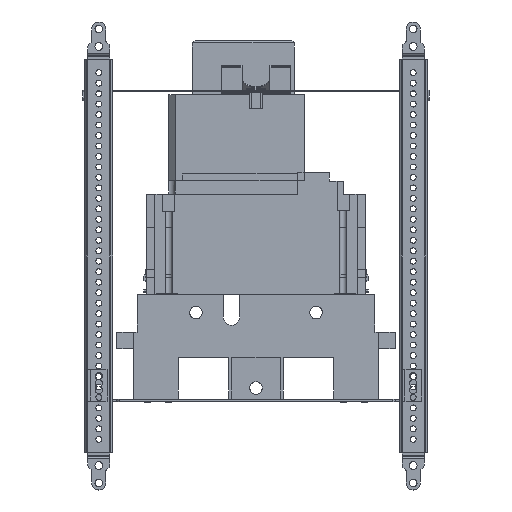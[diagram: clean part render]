
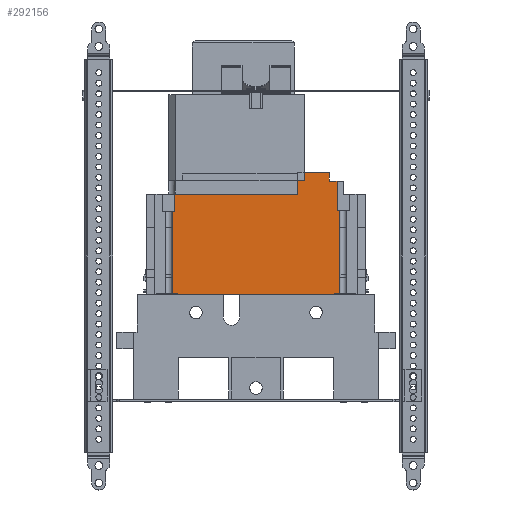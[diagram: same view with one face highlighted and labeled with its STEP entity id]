
A CAD part, left-side view. The second image highlights one B-rep face of the part: STEP entity #292156.
In plain terms, the highlighted planar face has unit normal (-1, 0, 0).
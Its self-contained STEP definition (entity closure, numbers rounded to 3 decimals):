
#277731=CARTESIAN_POINT(' ',(-214.311,-53.177,9.353));
#277732=VERTEX_POINT(' ',#277731);
#277746=CARTESIAN_POINT(' ',(-214.311,-53.177,9.353));
#277751=DIRECTION(' ',(0.,1.,0.));
#277756=VECTOR(' ',#277751,1.);
#277761=LINE('',#277746,#277756);
#277766=CARTESIAN_POINT(' ',(-214.311,59.243,9.353));
#277767=VERTEX_POINT(' ',#277766);
#277771=EDGE_CURVE(' ',#277732,#277767,#277761,.T.);
#291536=CARTESIAN_POINT(' ',(-214.311,-53.177,9.353));
#291541=DIRECTION(' ',(0.,0.,1.));
#291546=VECTOR(' ',#291541,1.);
#291551=LINE('',#291536,#291546);
#291556=CARTESIAN_POINT(' ',(-214.311,-53.177,9.853));
#291557=VERTEX_POINT(' ',#291556);
#291561=EDGE_CURVE(' ',#277732,#291557,#291551,.T.);
#291626=DIRECTION(' ',(-1.,0.,0.));
#291631=CARTESIAN_POINT(' ',(-214.311,-56.879,9.353));
#291636=DIRECTION(' ',(0.,-0.,1.));
#291641=AXIS2_PLACEMENT_3D(' ',#291631,#291626,#291636);
#291646=PLANE('NONE',#291641);
#291651=CARTESIAN_POINT(' ',(-214.311,-56.879,69.284));
#291656=DIRECTION(' ',(0.,0.,-1.));
#291661=VECTOR(' ',#291656,1.);
#291666=LINE('',#291651,#291661);
#291671=CARTESIAN_POINT(' ',(-214.311,-56.879,69.284));
#291672=VERTEX_POINT(' ',#291671);
#291676=CARTESIAN_POINT(' ',(-214.311,-56.879,9.853));
#291677=VERTEX_POINT(' ',#291676);
#291681=EDGE_CURVE(' ',#291672,#291677,#291666,.T.);
#291686=ORIENTED_EDGE(' ',*,*,#291681,.F.);
#291691=CARTESIAN_POINT(' ',(-214.311,-54.979,69.284));
#291696=DIRECTION(' ',(0.,-1.,0.));
#291701=VECTOR(' ',#291696,1.);
#291706=LINE('',#291691,#291701);
#291711=CARTESIAN_POINT(' ',(-214.311,-54.979,69.284));
#291712=VERTEX_POINT(' ',#291711);
#291716=EDGE_CURVE(' ',#291712,#291672,#291706,.T.);
#291721=ORIENTED_EDGE(' ',*,*,#291716,.F.);
#291726=CARTESIAN_POINT(' ',(-214.311,-54.979,90.494));
#291731=DIRECTION(' ',(0.,0.,-1.));
#291736=VECTOR(' ',#291731,1.);
#291741=LINE('',#291726,#291736);
#291746=CARTESIAN_POINT(' ',(-214.311,-54.979,90.494));
#291747=VERTEX_POINT(' ',#291746);
#291751=EDGE_CURVE(' ',#291747,#291712,#291741,.T.);
#291756=ORIENTED_EDGE(' ',*,*,#291751,.F.);
#291761=CARTESIAN_POINT(' ',(-214.311,-49.482,90.494));
#291766=DIRECTION(' ',(0.,-1.,0.));
#291771=VECTOR(' ',#291766,1.);
#291776=LINE('',#291761,#291771);
#291781=CARTESIAN_POINT(' ',(-214.311,-49.482,90.494));
#291782=VERTEX_POINT(' ',#291781);
#291786=EDGE_CURVE(' ',#291782,#291747,#291776,.T.);
#291791=ORIENTED_EDGE(' ',*,*,#291786,.F.);
#291796=CARTESIAN_POINT(' ',(-214.311,-49.482,96.344));
#291801=DIRECTION(' ',(0.,0.,-1.));
#291806=VECTOR(' ',#291801,1.);
#291811=LINE('',#291796,#291806);
#291816=CARTESIAN_POINT(' ',(-214.311,-49.482,96.344));
#291817=VERTEX_POINT(' ',#291816);
#291821=EDGE_CURVE(' ',#291817,#291782,#291811,.T.);
#291826=ORIENTED_EDGE(' ',*,*,#291821,.F.);
#291831=CARTESIAN_POINT(' ',(-214.311,-26.984,96.344));
#291836=DIRECTION(' ',(0.,-1.,0.));
#291841=VECTOR(' ',#291836,1.);
#291846=LINE('',#291831,#291841);
#291851=CARTESIAN_POINT(' ',(-214.311,-26.984,96.344));
#291852=VERTEX_POINT(' ',#291851);
#291856=EDGE_CURVE(' ',#291852,#291817,#291846,.T.);
#291861=ORIENTED_EDGE(' ',*,*,#291856,.F.);
#291866=CARTESIAN_POINT(' ',(-214.311,-26.984,96.344));
#291871=DIRECTION(' ',(0.,0.,-1.));
#291876=VECTOR(' ',#291871,1.);
#291881=LINE('',#291866,#291876);
#291886=CARTESIAN_POINT(' ',(-214.311,-26.984,81.204));
#291887=VERTEX_POINT(' ',#291886);
#291891=EDGE_CURVE(' ',#291852,#291887,#291881,.T.);
#291896=ORIENTED_EDGE(' ',*,*,#291891,.T.);
#291901=CARTESIAN_POINT(' ',(-214.311,-26.984,81.204));
#291906=DIRECTION(' ',(0.,1.,0.));
#291911=VECTOR(' ',#291906,1.);
#291916=LINE('',#291901,#291911);
#291921=CARTESIAN_POINT(' ',(-214.311,61.043,81.204));
#291922=VERTEX_POINT(' ',#291921);
#291926=EDGE_CURVE(' ',#291887,#291922,#291916,.T.);
#291931=ORIENTED_EDGE(' ',*,*,#291926,.T.);
#291936=CARTESIAN_POINT(' ',(-214.311,61.043,81.204));
#291941=DIRECTION(' ',(0.,0.,-1.));
#291946=VECTOR(' ',#291941,1.);
#291951=LINE('',#291936,#291946);
#291956=CARTESIAN_POINT(' ',(-214.311,61.043,68.904));
#291957=VERTEX_POINT(' ',#291956);
#291961=EDGE_CURVE(' ',#291922,#291957,#291951,.T.);
#291966=ORIENTED_EDGE(' ',*,*,#291961,.T.);
#291971=CARTESIAN_POINT(' ',(-214.311,61.043,68.904));
#291976=DIRECTION(' ',(0.,1.,0.));
#291981=VECTOR(' ',#291976,1.);
#291986=LINE('',#291971,#291981);
#291991=CARTESIAN_POINT(' ',(-214.311,62.945,68.904));
#291992=VERTEX_POINT(' ',#291991);
#291996=EDGE_CURVE(' ',#291957,#291992,#291986,.T.);
#292001=ORIENTED_EDGE(' ',*,*,#291996,.T.);
#292006=CARTESIAN_POINT(' ',(-214.311,62.945,9.853));
#292011=DIRECTION(' ',(0.,0.,1.));
#292016=VECTOR(' ',#292011,1.);
#292021=LINE('',#292006,#292016);
#292026=CARTESIAN_POINT(' ',(-214.311,62.945,9.853));
#292027=VERTEX_POINT(' ',#292026);
#292031=EDGE_CURVE(' ',#292027,#291992,#292021,.T.);
#292036=ORIENTED_EDGE(' ',*,*,#292031,.F.);
#292041=CARTESIAN_POINT(' ',(-214.311,62.945,9.853));
#292046=DIRECTION(' ',(0.,-1.,0.));
#292051=VECTOR(' ',#292046,1.);
#292056=LINE('',#292041,#292051);
#292061=CARTESIAN_POINT(' ',(-214.311,59.243,9.853));
#292062=VERTEX_POINT(' ',#292061);
#292066=EDGE_CURVE(' ',#292027,#292062,#292056,.T.);
#292071=ORIENTED_EDGE(' ',*,*,#292066,.T.);
#292076=CARTESIAN_POINT(' ',(-214.311,59.243,9.353));
#292081=DIRECTION(' ',(0.,0.,1.));
#292086=VECTOR(' ',#292081,1.);
#292091=LINE('',#292076,#292086);
#292096=EDGE_CURVE(' ',#277767,#292062,#292091,.T.);
#292101=ORIENTED_EDGE(' ',*,*,#292096,.F.);
#292106=ORIENTED_EDGE(' ',*,*,#277771,.F.);
#292111=ORIENTED_EDGE(' ',*,*,#291561,.T.);
#292116=CARTESIAN_POINT(' ',(-214.311,-56.879,9.853));
#292121=DIRECTION(' ',(0.,1.,0.));
#292126=VECTOR(' ',#292121,1.);
#292131=LINE('',#292116,#292126);
#292136=EDGE_CURVE(' ',#291677,#291557,#292131,.T.);
#292141=ORIENTED_EDGE(' ',*,*,#292136,.F.);
#292146=EDGE_LOOP(' ',(#291686,#291721,#291756,#291791,#291826,#291861,#291896,#291931,#291966,#292001,#292036,#292071,#292101,#292106,#292111,#292141));
#292151=FACE_OUTER_BOUND(' ',#292146,.T.);
#292156=ADVANCED_FACE('NONE',(#292151),#291646,.T.);
